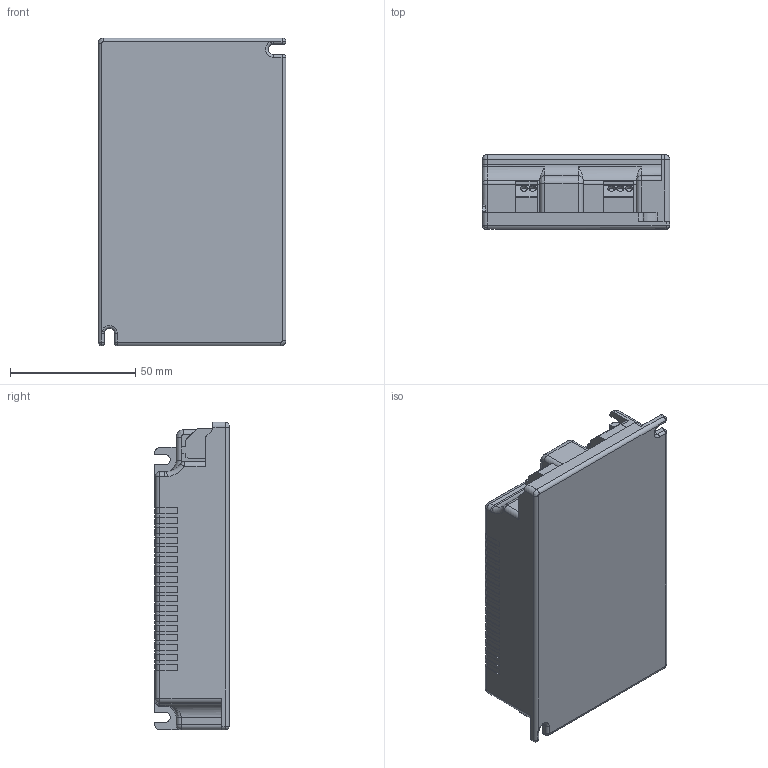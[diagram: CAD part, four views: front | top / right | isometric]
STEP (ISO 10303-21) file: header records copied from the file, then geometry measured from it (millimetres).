
FILE_DESCRIPTION((''),'2;1');
FILE_NAME('09550089Z','2013-01-08T',('emir.oezbadereli'),(''),'PRO/ENGINEER BY PARAMETRIC TECHNOLOGY CORPORATION, 2010480','PRO/ENGINEER BY PARAMETRIC TECHNOLOGY CORPORATION, 2010480','');
FILE_SCHEMA(('AUTOMOTIVE_DESIGN { 1 2 10303 214 0 1 1 1 }'));
Length unit declared in the file: millimetre
Products named in the file (1): 09550089Z
Bounding box: 75 x 29.7 x 123 mm (x, y, z)
Volume: 241798.7 mm3; surface area: 30344.2 mm2
Topology: 1 solids, 1 shells, 448 faces, 1260 edges, 821 vertices
Faces by surface type: plane 241, cylinder 177, bspline 11, sphere 10, torus 9
Entity records: 17723 total; most frequent: CARTESIAN_POINT 2952, ORIENTED_EDGE 2520, DIRECTION 2500, EDGE_CURVE 1260, VECTOR 868, LINE 868, VERTEX_POINT 821, AXIS2_PLACEMENT_3D 816
